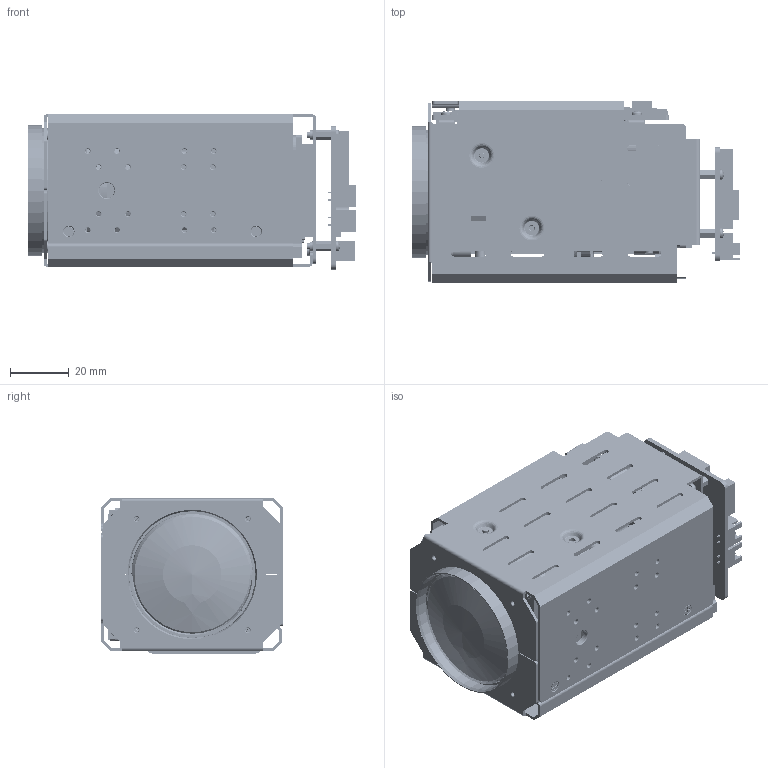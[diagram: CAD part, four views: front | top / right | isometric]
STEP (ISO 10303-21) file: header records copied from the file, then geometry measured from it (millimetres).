
FILE_DESCRIPTION(('FreeCAD Model'),'2;1');
FILE_NAME('Open CASCADE Shape Model','2022-10-27T09:40:08',(''),('ASL'), 'Open CASCADE STEP processor 7.5','FreeCAD','Unknown');
FILE_SCHEMA(('AUTOMOTIVE_DESIGN { 1 0 10303 214 1 1 1 1 }'));
Length unit declared in the file: millimetre
Products named in the file (1748): 23IP4K; SHELL; SHELL001; SHELL002; 3D_MODEL; 3D_MODEL_0; MSBR; MSBR001; MSBR002; MSBR003; MSBR004; MSBR005; MSBR006; MSBR007; MSBR008; MSBR009; MSBR010; MSBR011; MSBR012; MSBR013; MSBR014; MSBR015; MSBR016; MSBR017; MSBR018; MSBR019; MSBR020; MSBR021; MSBR022; MSBR023; MSBR024; MSBR025; MSBR026; MSBR027; MSBR028; MSBR029; MSBR030; MSBR031; MSBR032; MSBR033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
Assembly tree (1747 placements, depth 3):
  23IP4K
    SHELL
    SHELL001
    SHELL002
    3D_MODEL
    3D_MODEL_0
    MSBR
    MSBR001
    MSBR002
    MSBR003
    MSBR004
    MSBR005
    MSBR006
    MSBR007
    MSBR008
    MSBR009
    MSBR010
    MSBR011
    MSBR012
    MSBR013
    MSBR014
    MSBR015
    MSBR016
    MSBR017
    MSBR018
    MSBR019
    MSBR020
    MSBR021
    MSBR022
    MSBR023
    MSBR024
    MSBR025
    MSBR026
    MSBR027
    MSBR028
    MSBR029
    MSBR030
    MSBR031
    MSBR032
    MSBR033
    MSBR034
    MSBR035
    MSBR036
    MSBR037
    MSBR038
    MSBR039
    MSBR040
    MSBR041
    MSBR042
    MSBR043
    MSBR044
    MSBR045
    MSBR046
    MSBR047
    MSBR048
    MSBR049
    MSBR050
    MSBR051
    MSBR052
    MSBR053
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Bounding box: 112.14 x 62.15 x 53 mm (x, y, z)
Volume: 54623.9 mm3; surface area: 137593.3 mm2
Topology: 492 solids, 1685 shells, 11189 faces, 32002 edges, 23442 vertices
Faces by surface type: plane 9927, cylinder 854, torus 171, bspline 150, cone 78, sphere 8, revolution 1
Full cylindrical faces by diameter (mm): 0.762 x8, 0.8 x8, 1 x4, 1.143 x3, 1.4 x1, 1.5 x44, 1.7 x6, 1.8 x6, 2 x39, 2.032 x3, 2.2 x11, 2.235 x10, 2.3 x11, 2.54 x12, 3 x1, 3.2 x39, 3.5 x11, 3.6 x4, 3.8 x2, 4 x2, 4.1 x1, 4.4 x4, 5.3 x1, 7 x3, 8 x3, 10 x1, 10.1 x1, 42.8 x1, 45 x1
Entity records: 479644 total; most frequent: CARTESIAN_POINT 106743, ORIENTED_EDGE 57434, DIRECTION 57294, EDGE_CURVE 31998, LINE 27307, VECTOR 27307, VERTEX_POINT 23442, AXIS2_PLACEMENT_3D 14993
